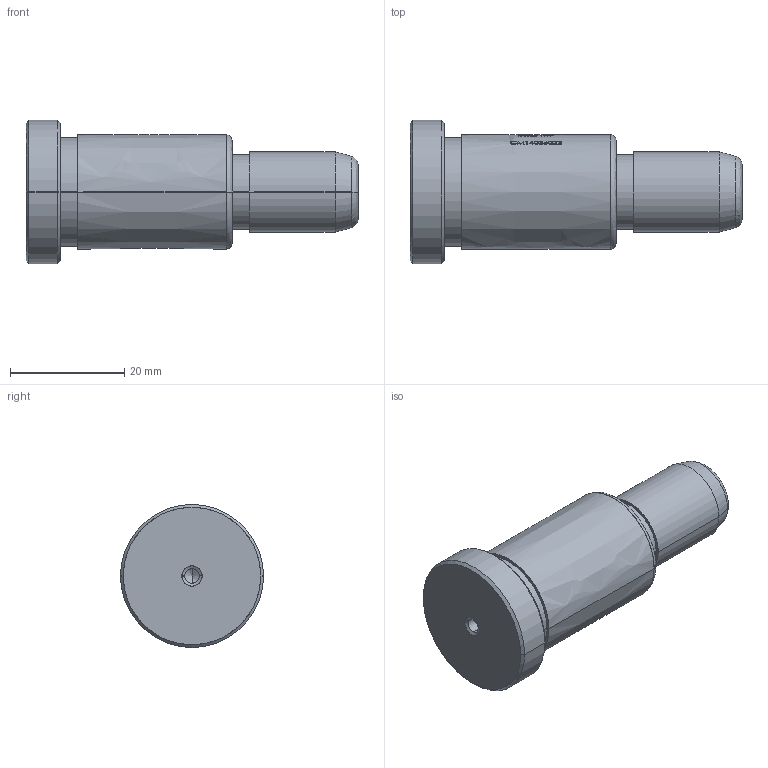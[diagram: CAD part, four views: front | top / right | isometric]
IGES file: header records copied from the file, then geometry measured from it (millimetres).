
Start section: SolidWorks IGES file using analytic representation for surfaces
Global section: file name: D:\TRIVECTOR\2026\08_Agosto\CM - COLUNA PRINCIPAL E31 (CATÁLOGO)\CM14036022.IGS; native system: SolidWorks 2024; preprocessor: SolidWorks 2024; author: Usuario; date: 260828.184034; units: millimetre
Bounding box: 58 x 25 x 25 mm (x, y, z)
Surface area: 4376.7 mm2 (no closed solid volume)
Topology: 0 solids, 0 shells, 461 faces, 4252 edges, 4248 vertices
Faces by surface type: bspline 385, revolution 76
